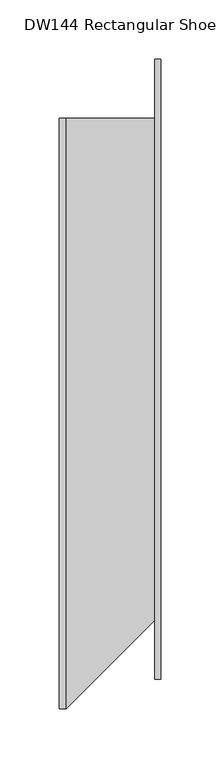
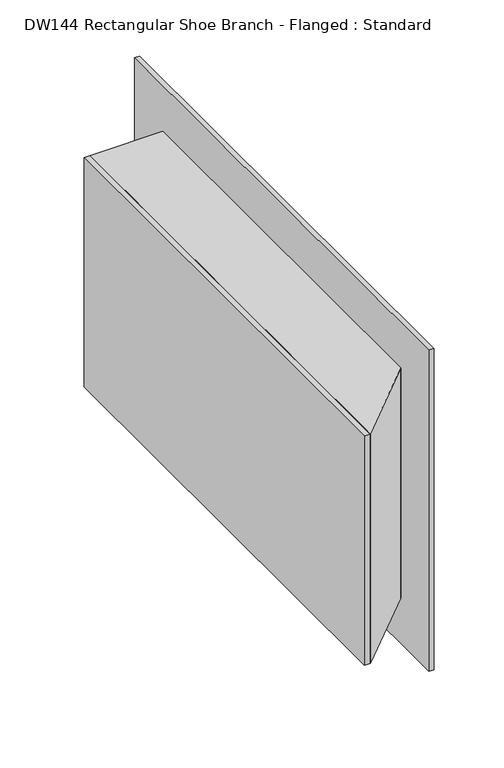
"""IFC4 building model written with IfcOpenShell, lengths in millimetres: duct fitting geometry, DW144 Rectangular Shoe Branch - Flanged : Standard."""

from ifc_helpers import new_model, si_unit, frame, origin, place, context, project, spatial, polyline, outline, extrude, source, transform, mapped, element, save


def dw144_rectangular_shoe_branch_flanged_standard_f887a304(model_context):
    return source(origin(), model_context, "Body", "SweptSolid", [
        extrude(outline(polyline([(80.0, 212.5), (80.0, -212.5), (75.0, -212.5), (0.0, -287.5), (0.0, 212.5), (80.0, 212.5)])), frame((0.0, 0.0, -125.0), z_axis=(0.0, 0.0, 1.0), x_axis=(1.0, 0.0, 0.0)), (0.0, 0.0, 1.0), 250.0),
        extrude(outline(polyline([(-6.096, -287.5), (-6.096, 212.5), (0.0, 212.5), (0.0, -287.5), (-6.096, -287.5)])), frame((0.0, 0.0, -125.0), z_axis=(0.0, 0.0, 1.0), x_axis=(1.0, 0.0, 0.0)), (0.0, 0.0, 1.0), 250.0),
        extrude(outline(polyline([(80.0, 262.5), (80.0, -262.5), (75.0, -262.5), (75.0, 262.5), (80.0, 262.5)])), frame((0.0, 0.0, -175.0), z_axis=(0.0, 0.0, 1.0), x_axis=(1.0, 0.0, 0.0)), (0.0, 0.0, 1.0), 350.0),
    ])


if __name__ == "__main__":
    model = new_model("IFC4")
    model_context = context("Model", 3, world=origin())
    ifc_project = project(units=[si_unit("LENGTHUNIT", "METRE", prefix="MILLI")], contexts=[model_context])
    site = spatial("IfcSite", under=ifc_project)
    building = spatial("IfcBuilding", under=site)
    placement = place(None, origin())
    dw144_rectangular_shoe_branch_flanged_standard_shape = dw144_rectangular_shoe_branch_flanged_standard_f887a304(model_context)
    element("IfcDuctFitting", 1, ObjectType="DW144 Rectangular Shoe Branch - Flanged : Standard", at=placement, inside=building, context=model_context, shape_type="MappedRepresentation", body=[
        mapped(dw144_rectangular_shoe_branch_flanged_standard_shape, transform((0.0, 0.0, 0.0), x_axis=(1.0, 0.0, 0.0), y_axis=(0.0, 1.0, 0.0), z_axis=(0.0, 0.0, 1.0))),
    ])
    save(model, "model.ifc")
